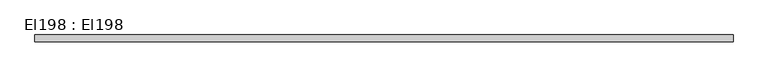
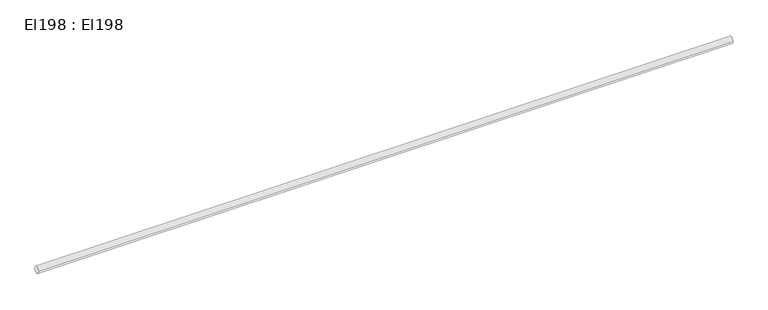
"""IFC4 building model written with IfcOpenShell, lengths in millimetres: cable carrier segment geometry, El198 : El198."""

import ifcopenshell
import ifcopenshell.guid

model = None  # the IFC model being written
_history = None  # IfcOwnerHistory: only IFC2X3 demands one
_inside = {}  # id of a spatial element -> (the spatial element, [elements in it])
_under = {}  # id of a project, library or spatial element -> (it, [spatial elements below it])
_declared = {}  # id of a project -> (the project, [libraries it declares])
_typed = {}  # id of a type object -> (the type object, [elements of that type])
_made_of = {}  # id of a material, layer set ... -> (it, [elements and type objects made of it])


def new_model(schema):
    """Start an empty IFC model of exactly this schema.

    Asked for "IFC4X3", IfcOpenShell would pick the latest addendum, in which some entities
    have other attributes; the version numbers below select the first issue.
    IFC2X3 requires an IfcOwnerHistory on every rooted entity: one is made here for all.
    """
    global model, _history
    if schema == "IFC4X3":
        model = ifcopenshell.file(schema_version=(4, 3, 0, 0))
    else:
        model = ifcopenshell.file(schema=schema)
    _inside.clear()
    _under.clear()
    _declared.clear()
    _typed.clear()
    _made_of.clear()
    _history = None
    if model.schema == "IFC2X3":
        org = make("IfcOrganization", Name="unknown")
        user = make(
            "IfcPersonAndOrganization",
            ThePerson=make("IfcPerson", FamilyName="unknown"),
            TheOrganization=org,
        )
        app = make(
            "IfcApplication",
            ApplicationDeveloper=org,
            Version="unknown",
            ApplicationFullName="unknown",
            ApplicationIdentifier="unknown",
        )
        _history = make(
            "IfcOwnerHistory",
            OwningUser=user,
            OwningApplication=app,
            ChangeAction="ADDED",
            CreationDate=0,
        )
    return model


def make(cls, **values):
    """One entity of the class cls with the attributes given. An attribute that is None is left unset."""
    return model.create_entity(
        cls, **{name: value for name, value in values.items() if value is not None}
    )


def rooted(cls, **values):
    """An entity with a GlobalId (a new one), such as an element, a storey or a relation."""
    return make(cls, GlobalId=ifcopenshell.guid.new(), OwnerHistory=_history, **values)


def si_unit(unit_type, name, prefix=None):
    """IfcSIUnit, for example si_unit("LENGTHUNIT", "METRE", prefix="MILLI")."""
    return make("IfcSIUnit", UnitType=unit_type, Prefix=prefix, Name=name)


def assignment(units):
    """IfcUnitAssignment: the units of a project."""
    return None if units is None else make("IfcUnitAssignment", Units=units)


def point(xyz):
    """IfcCartesianPoint."""
    return None if xyz is None else make("IfcCartesianPoint", Coordinates=xyz)


def direction(xyz):
    """IfcDirection."""
    return None if xyz is None else make("IfcDirection", DirectionRatios=xyz)


def frame(location, z_axis=None, x_axis=None):
    """IfcAxis2Placement3D, a coordinate frame: its origin and axes. An axis left out is left unset."""
    return make(
        "IfcAxis2Placement3D",
        Location=point(location),
        Axis=direction(z_axis),
        RefDirection=direction(x_axis),
    )


def frame_2d(location, x_axis=None):
    """IfcAxis2Placement2D, a coordinate frame in the plane: its origin and x axis."""
    return make(
        "IfcAxis2Placement2D", Location=point(location), RefDirection=direction(x_axis)
    )


def origin():
    """The frame at (0, 0, 0) with its axes left unset."""
    return frame((0.0, 0.0, 0.0))


def place(relative_to, where):
    """IfcLocalPlacement: puts the frame where relative to a parent placement (None: the world)."""
    return make(
        "IfcLocalPlacement", PlacementRelTo=relative_to, RelativePlacement=where
    )


def context(
    kind, dimensions, precision=None, world=None, true_north=None, identifier=None
):
    """IfcGeometricRepresentationContext, for example the 3D "Model" context."""
    return make(
        "IfcGeometricRepresentationContext",
        ContextIdentifier=identifier,
        ContextType=kind,
        CoordinateSpaceDimension=dimensions,
        Precision=precision,
        WorldCoordinateSystem=world,
        TrueNorth=true_north,
    )


def project(units=None, contexts=None):
    """IfcProject with its units and contexts."""
    return rooted(
        "IfcProject",
        Name="project",
        RepresentationContexts=contexts,
        UnitsInContext=assignment(units),
    )


def spatial(cls, under=None, at=None, **own):
    """A site, building, storey or space (cls), placed at a placement, below another one or the project."""
    s = rooted(cls, ObjectPlacement=at, **own)
    if under is not None:
        _under.setdefault(under.id(), (under, []))[1].append(s)
    return s


def circle_curve(where, radius):
    """IfcCircle in the frame where."""
    return make("IfcCircle", Position=where, Radius=radius)


def trimmed(basis, trim1, trim2, sense, master):
    """IfcTrimmedCurve: the piece of a basis curve between two trims."""
    return make(
        "IfcTrimmedCurve",
        BasisCurve=basis,
        Trim1=trim1,
        Trim2=trim2,
        SenseAgreement=sense,
        MasterRepresentation=master,
    )


def segment(curve, same_sense, transition):
    """IfcCompositeCurveSegment."""
    return make(
        "IfcCompositeCurveSegment",
        Transition=transition,
        SameSense=same_sense,
        ParentCurve=curve,
    )


def composite_curve(segments, self_intersect=None):
    """IfcCompositeCurve: segments joined end to end."""
    return make("IfcCompositeCurve", Segments=segments, SelfIntersect=self_intersect)


def outline(outer, holes=None, kind="AREA"):
    """IfcArbitraryClosedProfileDef: a profile drawn as a closed curve; with holes, ...WithVoids."""
    if holes is None:
        return make("IfcArbitraryClosedProfileDef", ProfileType=kind, OuterCurve=outer)
    return make(
        "IfcArbitraryProfileDefWithVoids",
        ProfileType=kind,
        OuterCurve=outer,
        InnerCurves=holes,
    )


def extrude(swept, where, along, depth):
    """IfcExtrudedAreaSolid: the profile swept, set in the frame where, extruded along a direction by depth."""
    return make(
        "IfcExtrudedAreaSolid",
        SweptArea=swept,
        Position=where,
        ExtrudedDirection=direction(along),
        Depth=depth,
    )


def shape(context_of_items, identifier, shape_type, items):
    """IfcShapeRepresentation: the items that make up one representation, for example the "Body"."""
    return make(
        "IfcShapeRepresentation",
        ContextOfItems=context_of_items,
        RepresentationIdentifier=identifier,
        RepresentationType=shape_type,
        Items=items,
    )


def source(mapping_origin, context_of_items, identifier, shape_type, items):
    """IfcRepresentationMap: a shape defined once, which mapped items show again and again."""
    return make(
        "IfcRepresentationMap",
        MappingOrigin=mapping_origin,
        MappedRepresentation=shape(context_of_items, identifier, shape_type, items),
    )


def transform(
    local_origin,
    x_axis=None,
    y_axis=None,
    z_axis=None,
    scale=None,
    scale2=None,
    scale3=None,
    uniform=True,
):
    """IfcCartesianTransformationOperator3D, or its non-uniform kind. x_axis, y_axis, z_axis: its Axis1, 2, 3."""
    if uniform:
        return make(
            "IfcCartesianTransformationOperator3D",
            Axis1=direction(x_axis),
            Axis2=direction(y_axis),
            LocalOrigin=point(local_origin),
            Scale=scale,
            Axis3=direction(z_axis),
        )
    return make(
        "IfcCartesianTransformationOperator3DnonUniform",
        Axis1=direction(x_axis),
        Axis2=direction(y_axis),
        LocalOrigin=point(local_origin),
        Scale=scale,
        Axis3=direction(z_axis),
        Scale2=scale2,
        Scale3=scale3,
    )


def mapped(mapping_source, mapping_target):
    """IfcMappedItem: shows the shape of a source again, moved by a transform."""
    return make(
        "IfcMappedItem", MappingSource=mapping_source, MappingTarget=mapping_target
    )


def made_of(thing, what):
    """Note that an element or type object is made of a material, layer set ...; save() writes the relation."""
    if what is not None:
        _made_of.setdefault(what.id(), (what, []))[1].append(thing)
    return thing


def element(
    cls,
    number,
    at=None,
    inside=None,
    cuts=None,
    type_object=None,
    material=None,
    context=None,
    identifier="Body",
    shape_type=None,
    held_by="IfcProductDefinitionShape",
    body=None,
    shapes=None,
    **own,
):
    """One element of the class cls, such as IfcWall. Its Tag is "e" and its number.

    at: its placement. inside: the storey or other place that contains it. cuts: it is an
    opening in that element (IfcRelVoidsElement). A single representation is given by context,
    identifier, shape_type and body (its items); several are given by shapes. held_by: the class
    of the entity that holds the representations. save() writes the other relations.
    """
    e = rooted(cls, Tag="e%d" % number, ObjectPlacement=at, **own)
    if body is not None:
        shapes = [shape(context, identifier, shape_type, body)]
    if shapes is not None:
        e.Representation = make(held_by, Representations=shapes)
    if inside is not None:
        _inside.setdefault(inside.id(), (inside, []))[1].append(e)
    if cuts is not None:
        rooted(
            "IfcRelVoidsElement", RelatingBuildingElement=cuts, RelatedOpeningElement=e
        )
    if type_object is not None:
        _typed.setdefault(type_object.id(), (type_object, []))[1].append(e)
    return made_of(e, material)


def aggregate(whole, parts):
    """IfcRelAggregates: a whole, such as a stair, and the parts it consists of."""
    return rooted("IfcRelAggregates", RelatingObject=whole, RelatedObjects=parts)


def save(model, path):
    """Write the relations noted so far, then the file.

    IfcRelAggregates (storeys below a building ...), IfcRelContainedInSpatialStructure (elements
    in a storey), IfcRelDefinesByType, IfcRelAssociatesMaterial and IfcRelDeclares: one each for
    every whole, place, type object, material and project.
    """
    for whole, parts in _under.values():
        aggregate(whole, parts)
    for where, things in _inside.values():
        rooted(
            "IfcRelContainedInSpatialStructure",
            RelatedElements=things,
            RelatingStructure=where,
        )
    for kind, things in _typed.values():
        rooted("IfcRelDefinesByType", RelatedObjects=things, RelatingType=kind)
    for what, things in _made_of.values():
        rooted("IfcRelAssociatesMaterial", RelatedObjects=things, RelatingMaterial=what)
    for by, libraries in _declared.values():
        rooted("IfcRelDeclares", RelatingContext=by, RelatedDefinitions=libraries)
    model.write(path)


def el198_el198_8e0d3ac9(model_context):
    return source(origin(), model_context, "Body", "SweptSolid", [
        extrude(outline(composite_curve([segment(trimmed(circle_curve(frame_2d((30572.1, 2950.0)), 9.5), [point((30562.6, 2950.0))], [point((30581.6, 2950.0))], False, "CARTESIAN"), True, "CONTINUOUS"), segment(trimmed(circle_curve(frame_2d((30572.1, 2950.0)), 9.5), [point((30581.6, 2950.0))], [point((30562.6, 2950.0))], False, "CARTESIAN"), True, "CONTINUOUS")], self_intersect=False)), frame((11641.1, 0.0, 0.0), z_axis=(1.0, 0.0, 0.0), x_axis=(0.0, 1.0, 0.0)), (0.0, 0.0, 1.0), 1965.0),
    ])


if __name__ == "__main__":
    model = new_model("IFC4")
    model_context = context("Model", 3, world=origin())
    ifc_project = project(units=[si_unit("LENGTHUNIT", "METRE", prefix="MILLI")], contexts=[model_context])
    site = spatial("IfcSite", under=ifc_project)
    building = spatial("IfcBuilding", under=site)
    placement = place(None, origin())
    el198_el198_shape = el198_el198_8e0d3ac9(model_context)
    element("IfcCableCarrierSegment", 1, ObjectType="El198 : El198", at=placement, inside=building, context=model_context, shape_type="MappedRepresentation", body=[
        mapped(el198_el198_shape, transform((0.0, 0.0, 0.0), x_axis=(1.0, 0.0, 0.0), y_axis=(0.0, 1.0, 0.0), z_axis=(0.0, 0.0, 1.0))),
    ])
    save(model, "model.ifc")
